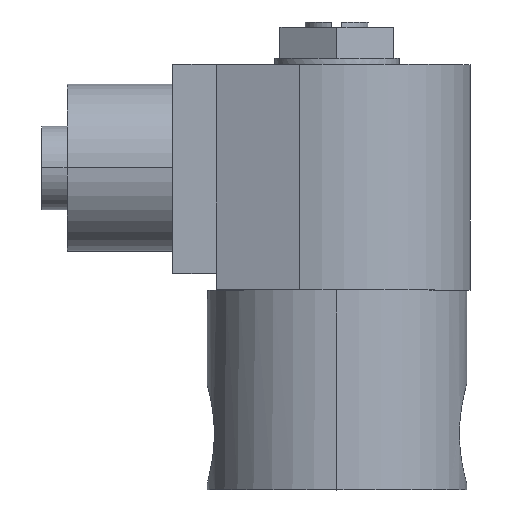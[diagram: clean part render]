
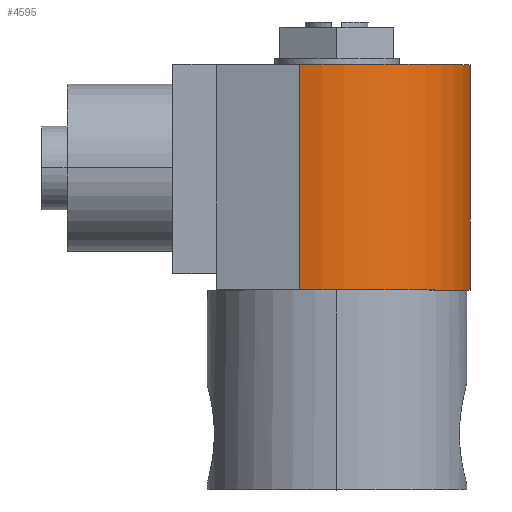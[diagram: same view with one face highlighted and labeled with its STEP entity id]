
A CAD part, top view. The second image highlights one B-rep face of the part: STEP entity #4595.
In plain terms, the highlighted cylindrical face has radius 20.32 mm (diameter 40.64 mm), a partial arc.
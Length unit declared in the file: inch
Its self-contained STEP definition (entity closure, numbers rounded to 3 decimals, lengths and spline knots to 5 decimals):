
#86 = DIRECTION ( 'NONE',  ( 1., 0., 0. ) ) ;
#465 = AXIS2_PLACEMENT_3D ( 'NONE', #7261, #14458, #86 ) ;
#758 = AXIS2_PLACEMENT_3D ( 'NONE', #2749, #5311, #11517 ) ;
#1008 = CIRCLE ( 'NONE', #7601, 0.8 ) ;
#1060 = CYLINDRICAL_SURFACE ( 'NONE', #465, 0.8 ) ;
#1132 = DIRECTION ( 'NONE',  ( 0., -1., 0. ) ) ;
#1309 = ORIENTED_EDGE ( 'NONE', *, *, #10650, .F. ) ;
#1593 = CARTESIAN_POINT ( 'NONE',  ( 0.8, 1.195, 0. ) ) ;
#1656 = ORIENTED_EDGE ( 'NONE', *, *, #7668, .F. ) ;
#1771 = VERTEX_POINT ( 'NONE', #5785 ) ;
#2394 = FACE_OUTER_BOUND ( 'NONE', #3306, .T. ) ;
#2553 = LINE ( 'NONE', #12286, #3324 ) ;
#2749 = CARTESIAN_POINT ( 'NONE',  ( 0., 2.545, 0. ) ) ;
#3306 = EDGE_LOOP ( 'NONE', ( #1309, #1656, #12142, #14290 ) ) ;
#3324 = VECTOR ( 'NONE', #11981, 39.37008 ) ;
#3532 = CARTESIAN_POINT ( 'NONE',  ( -0.22081, 1.195, 0.76892 ) ) ;
#3553 = CIRCLE ( 'NONE', #758, 0.8 ) ;
#4595 = ADVANCED_FACE ( 'Defeatured_0_3', ( #2394 ), #1060, .T. ) ;
#5311 = DIRECTION ( 'NONE',  ( 0., 1., 0. ) ) ;
#5785 = CARTESIAN_POINT ( 'NONE',  ( 0.8, 2.545, 0. ) ) ;
#6584 = DIRECTION ( 'NONE',  ( -1., 0., 0. ) ) ;
#7179 = LINE ( 'NONE', #8469, #12633 ) ;
#7261 = CARTESIAN_POINT ( 'NONE',  ( 0., 2.545, 0. ) ) ;
#7593 = EDGE_CURVE ( 'NONE', #15118, #9594, #1008, .T. ) ;
#7601 = AXIS2_PLACEMENT_3D ( 'NONE', #12628, #7947, #6584 ) ;
#7668 = EDGE_CURVE ( 'NONE', #14153, #1771, #3553, .T. ) ;
#7947 = DIRECTION ( 'NONE',  ( 0., 1., 0. ) ) ;
#8469 = CARTESIAN_POINT ( 'NONE',  ( -0.22081, 2.545, 0.76892 ) ) ;
#9594 = VERTEX_POINT ( 'NONE', #1593 ) ;
#10650 = EDGE_CURVE ( 'NONE', #1771, #9594, #2553, .T. ) ;
#11517 = DIRECTION ( 'NONE',  ( -1., 0., 0. ) ) ;
#11981 = DIRECTION ( 'NONE',  ( 0., -1., 0. ) ) ;
#12142 = ORIENTED_EDGE ( 'NONE', *, *, #13852, .T. ) ;
#12286 = CARTESIAN_POINT ( 'NONE',  ( 0.8, 2.545, 0. ) ) ;
#12628 = CARTESIAN_POINT ( 'NONE',  ( 0., 1.195, 0. ) ) ;
#12633 = VECTOR ( 'NONE', #1132, 39.37008 ) ;
#13852 = EDGE_CURVE ( 'NONE', #14153, #15118, #7179, .T. ) ;
#14153 = VERTEX_POINT ( 'NONE', #14699 ) ;
#14290 = ORIENTED_EDGE ( 'NONE', *, *, #7593, .T. ) ;
#14458 = DIRECTION ( 'NONE',  ( 0., -1., 0. ) ) ;
#14699 = CARTESIAN_POINT ( 'NONE',  ( -0.22081, 2.545, 0.76892 ) ) ;
#15118 = VERTEX_POINT ( 'NONE', #3532 ) ;
